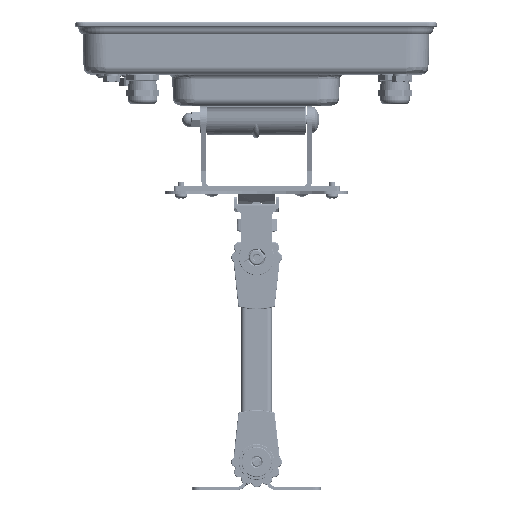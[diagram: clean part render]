
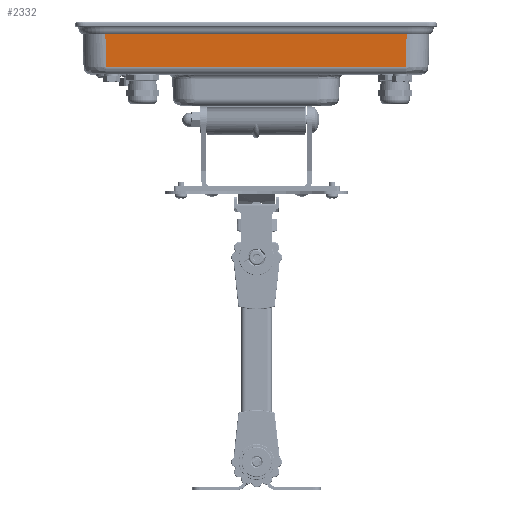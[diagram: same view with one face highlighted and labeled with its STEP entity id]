
A CAD part, top view. The second image highlights one B-rep face of the part: STEP entity #2332.
In plain terms, the highlighted planar face has unit normal (0, -0.026, 1) as drawn and (0, -0.026, -1) by its records, which use the part's own axes.
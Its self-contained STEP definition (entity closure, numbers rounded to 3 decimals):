
#30=CARTESIAN_POINT('',(-99.755,0.,-72.5));
#40=DIRECTION('',(-1.,0.,0.));
#41=VECTOR('',#40,199.51);
#42=CARTESIAN_POINT('',(99.755,0.,-72.5));
#43=LINE('',#42,#41);
#52=CARTESIAN_POINT('',(99.755,0.,-72.5));
#150=DIRECTION('',(0.026,0.999,-0.026));
#151=VECTOR('',#150,23.147);
#152=CARTESIAN_POINT('',(99.149,-23.131,-71.894));
#153=LINE('',#152,#151);
#154=DIRECTION('',(-0.026,0.999,-0.026));
#155=VECTOR('',#154,23.147);
#156=CARTESIAN_POINT('',(-99.149,-23.131,
-71.894));
#157=LINE('',#156,#155);
#158=DIRECTION('',(-1.,0.,0.));
#159=VECTOR('',#158,198.299);
#160=CARTESIAN_POINT('',(99.149,-23.131,-71.894));
#161=LINE('',#160,#159);
#1865=VERTEX_POINT('',#52);
#1868=VERTEX_POINT('',#30);
#1874=CARTESIAN_POINT('',(99.149,-23.131,
-71.894));
#1875=VERTEX_POINT('',#1874);
#1884=CARTESIAN_POINT('',(-99.149,-23.131,
-71.894));
#1885=VERTEX_POINT('',#1884);
#2319=CARTESIAN_POINT('',(114.75,0.,-72.5));
#2320=DIRECTION('',(0.,-0.026,-1.));
#2321=DIRECTION('',(1.,0.,0.));
#2322=AXIS2_PLACEMENT_3D('',#2319,#2320,#2321);
#2323=PLANE('',#2322);
#2324=ORIENTED_EDGE('',*,*,#2310,.T.);
#2325=ORIENTED_EDGE('',*,*,#2249,.T.);
#2327=ORIENTED_EDGE('',*,*,#2326,.F.);
#2329=ORIENTED_EDGE('',*,*,#2328,.F.);
#2330=EDGE_LOOP('',(#2324,#2325,#2327,#2329));
#2331=FACE_OUTER_BOUND('',#2330,.F.);
#2332=ADVANCED_FACE('',(#2331),#2323,.T.);
#2249=EDGE_CURVE('',#1865,#1868,#43,.T.);
#2310=EDGE_CURVE('',#1875,#1865,#153,.T.);
#2326=EDGE_CURVE('',#1885,#1868,#157,.T.);
#2328=EDGE_CURVE('',#1875,#1885,#161,.T.);
